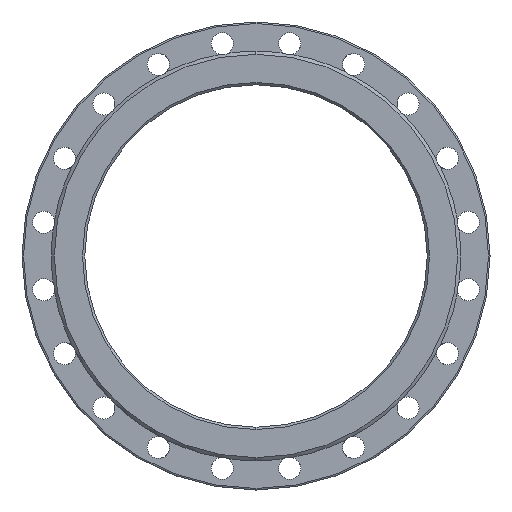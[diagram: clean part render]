
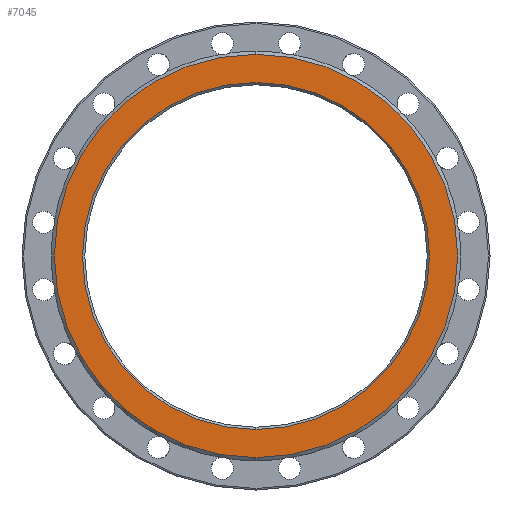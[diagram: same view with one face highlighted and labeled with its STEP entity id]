
A CAD part, left-side view. The second image highlights one B-rep face of the part: STEP entity #7045.
In plain terms, the highlighted planar face has unit normal (-1, 0, 0).
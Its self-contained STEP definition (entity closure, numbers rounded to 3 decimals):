
#141 = CARTESIAN_POINT ( 'NONE',  ( -350., 0., -228. ) ) ;
#358 = VERTEX_POINT ( 'NONE', #7519 ) ;
#433 = ORIENTED_EDGE ( 'NONE', *, *, #829, .T. ) ;
#475 = ORIENTED_EDGE ( 'NONE', *, *, #6059, .T. ) ;
#829 = EDGE_CURVE ( 'Defeatured_0_4+Defeatured_0_63+Defeatured_0_63+Defeatured_0_63', #1549, #4848, #6488, .T. ) ;
#888 = ORIENTED_EDGE ( 'NONE', *, *, #2273, .T. ) ;
#939 = FACE_BOUND ( 'NONE', #1048, .T. ) ;
#1048 = EDGE_LOOP ( 'NONE', ( #4380, #433 ) ) ;
#1206 = DIRECTION ( 'NONE',  ( 0., 0., -1. ) ) ;
#1280 = DIRECTION ( 'NONE',  ( 1., 0., 0. ) ) ;
#1282 = DIRECTION ( 'NONE',  ( 1., 0., 0. ) ) ;
#1428 = AXIS2_PLACEMENT_3D ( 'NONE', #3828, #7449, #6218 ) ;
#1549 = VERTEX_POINT ( 'NONE', #141 ) ;
#1811 = CIRCLE ( 'NONE', #1428, 265. ) ;
#2273 = EDGE_CURVE ( 'Defeatured_0_4+Defeatured_0_0+Defeatured_0_0+Defeatured_0_0', #358, #3442, #1811, .T. ) ;
#2314 = EDGE_LOOP ( 'NONE', ( #888, #475 ) ) ;
#2702 = CIRCLE ( 'NONE', #5553, 228. ) ;
#2803 = FACE_OUTER_BOUND ( 'NONE', #2314, .T. ) ;
#3090 = CARTESIAN_POINT ( 'NONE',  ( -350., 0., 265. ) ) ;
#3111 = DIRECTION ( 'NONE',  ( 0., 0., -1. ) ) ;
#3285 = AXIS2_PLACEMENT_3D ( 'NONE', #4459, #4580, #7544 ) ;
#3442 = VERTEX_POINT ( 'NONE', #3090 ) ;
#3489 = AXIS2_PLACEMENT_3D ( 'NONE', #6547, #1282, #1206 ) ;
#3597 = AXIS2_PLACEMENT_3D ( 'NONE', #6144, #4852, #5397 ) ;
#3828 = CARTESIAN_POINT ( 'NONE',  ( -350., 0., 0. ) ) ;
#4171 = EDGE_CURVE ( 'Defeatured_0_4+Defeatured_0_63+Defeatured_0_63+Defeatured_0_63', #4848, #1549, #2702, .T. ) ;
#4226 = CARTESIAN_POINT ( 'NONE',  ( -350., 0., 0. ) ) ;
#4380 = ORIENTED_EDGE ( 'NONE', *, *, #4171, .T. ) ;
#4459 = CARTESIAN_POINT ( 'NONE',  ( -350., 225., 0. ) ) ;
#4580 = DIRECTION ( 'NONE',  ( 1., 0., 0. ) ) ;
#4848 = VERTEX_POINT ( 'NONE', #7141 ) ;
#4852 = DIRECTION ( 'NONE',  ( -1., 0., 0. ) ) ;
#5397 = DIRECTION ( 'NONE',  ( 0., 0., 1. ) ) ;
#5553 = AXIS2_PLACEMENT_3D ( 'NONE', #4226, #1280, #3111 ) ;
#5757 = PLANE ( 'NONE',  #3285 ) ;
#6059 = EDGE_CURVE ( 'Defeatured_0_4+Defeatured_0_0+Defeatured_0_0+Defeatured_0_0', #3442, #358, #7575, .T. ) ;
#6144 = CARTESIAN_POINT ( 'NONE',  ( -350., 0., 0. ) ) ;
#6218 = DIRECTION ( 'NONE',  ( 0., 0., 1. ) ) ;
#6488 = CIRCLE ( 'NONE', #3489, 228. ) ;
#6547 = CARTESIAN_POINT ( 'NONE',  ( -350., 0., 0. ) ) ;
#7045 = ADVANCED_FACE ( 'Defeatured_0_4', ( #939, #2803 ), #5757, .F. ) ;
#7141 = CARTESIAN_POINT ( 'NONE',  ( -350., 0., 228. ) ) ;
#7449 = DIRECTION ( 'NONE',  ( -1., 0., 0. ) ) ;
#7519 = CARTESIAN_POINT ( 'NONE',  ( -350., 0., -265. ) ) ;
#7544 = DIRECTION ( 'NONE',  ( 0., 0., -1. ) ) ;
#7575 = CIRCLE ( 'NONE', #3597, 265. ) ;
